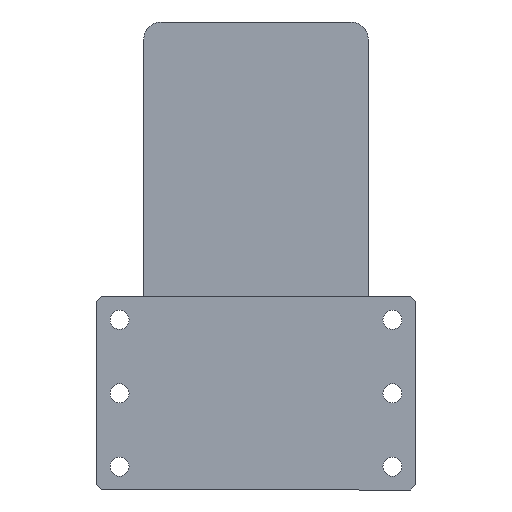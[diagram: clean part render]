
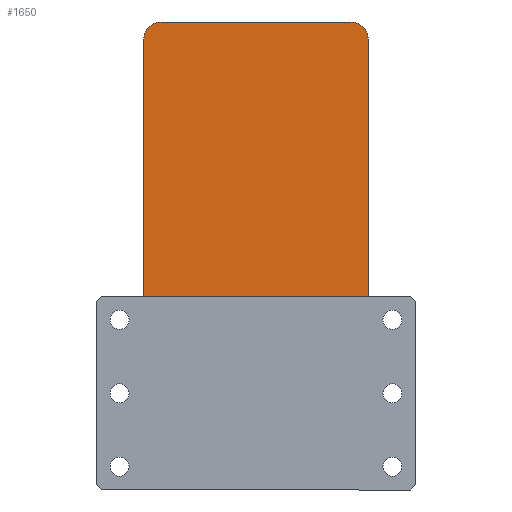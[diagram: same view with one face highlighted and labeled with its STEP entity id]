
A CAD part, left-side view. The second image highlights one B-rep face of the part: STEP entity #1650.
In plain terms, the highlighted planar face has unit normal (-1, 0, 0) as drawn and (0, 0, 1) by its records, which use the part's own axes.
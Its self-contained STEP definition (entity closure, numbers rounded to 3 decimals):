
#285 = VECTOR ( 'NONE', #9053, 1000. ) ;
#370 = LINE ( 'NONE', #9146, #285 ) ;
#385 = DIRECTION ( 'NONE',  ( 1., 0., 0. ) ) ;
#417 = EDGE_CURVE ( 'NONE', #4066, #1616, #8399, .T. ) ;
#431 = DIRECTION ( 'NONE',  ( 0., 0., 1. ) ) ;
#524 = CARTESIAN_POINT ( 'NONE',  ( 55., 125., 105. ) ) ;
#570 = VERTEX_POINT ( 'NONE', #8396 ) ;
#582 = EDGE_CURVE ( 'NONE', #4650, #570, #8069, .T. ) ;
#634 = EDGE_CURVE ( 'NONE', #5399, #5902, #7976, .T. ) ;
#762 = CIRCLE ( 'NONE', #1192, 10. ) ;
#907 = VERTEX_POINT ( 'NONE', #3441 ) ;
#1192 = AXIS2_PLACEMENT_3D ( 'NONE', #524, #431, #385 ) ;
#1616 = VERTEX_POINT ( 'NONE', #3503 ) ;
#1650 = ADVANCED_FACE ( 'NONE', ( #5343 ), #2405, .T. ) ;
#2171 = DIRECTION ( 'NONE',  ( 1., 0., 0. ) ) ;
#2190 = DIRECTION ( 'NONE',  ( 0., 0., 1. ) ) ;
#2237 = CARTESIAN_POINT ( 'NONE',  ( 0., 0., 105. ) ) ;
#2405 = PLANE ( 'NONE',  #7271 ) ;
#2859 = AXIS2_PLACEMENT_3D ( 'NONE', #8319, #8303, #8289 ) ;
#3441 = CARTESIAN_POINT ( 'NONE',  ( 65., 125., 105. ) ) ;
#3503 = CARTESIAN_POINT ( 'NONE',  ( -65., 125., 105. ) ) ;
#4050 = CARTESIAN_POINT ( 'NONE',  ( 55., -135., 105. ) ) ;
#4066 = VERTEX_POINT ( 'NONE', #10144 ) ;
#4650 = VERTEX_POINT ( 'NONE', #10748 ) ;
#5275 = CARTESIAN_POINT ( 'NONE',  ( 55., 135., 105. ) ) ;
#5280 = VERTEX_POINT ( 'NONE', #5275 ) ;
#5343 = FACE_OUTER_BOUND ( 'NONE', #9664, .T. ) ;
#5399 = VERTEX_POINT ( 'NONE', #4050 ) ;
#5553 = VECTOR ( 'NONE', #5908, 1000. ) ;
#5563 = LINE ( 'NONE', #10460, #10394 ) ;
#5901 = VECTOR ( 'NONE', #10081, 1000. ) ;
#5902 = VERTEX_POINT ( 'NONE', #10288 ) ;
#5908 = DIRECTION ( 'NONE',  ( 0., -1., 0. ) ) ;
#5978 = CARTESIAN_POINT ( 'NONE',  ( -65., 135., 105. ) ) ;
#6250 = AXIS2_PLACEMENT_3D ( 'NONE', #7581, #7563, #7536 ) ;
#7091 = EDGE_CURVE ( 'NONE', #907, #5280, #762, .T. ) ;
#7206 = EDGE_CURVE ( 'NONE', #5280, #4066, #370, .T. ) ;
#7271 = AXIS2_PLACEMENT_3D ( 'NONE', #2237, #2190, #2171 ) ;
#7327 = LINE ( 'NONE', #10200, #5901 ) ;
#7432 = EDGE_CURVE ( 'NONE', #5902, #907, #7327, .T. ) ;
#7536 = DIRECTION ( 'NONE',  ( 1., 0., 0. ) ) ;
#7563 = DIRECTION ( 'NONE',  ( 0., 0., 1. ) ) ;
#7581 = CARTESIAN_POINT ( 'NONE',  ( 55., -125., 105. ) ) ;
#7716 = EDGE_CURVE ( 'NONE', #1616, #4650, #9977, .T. ) ;
#7976 = CIRCLE ( 'NONE', #6250, 10. ) ;
#8069 = CIRCLE ( 'NONE', #2859, 10. ) ;
#8289 = DIRECTION ( 'NONE',  ( 1., 0., 0. ) ) ;
#8303 = DIRECTION ( 'NONE',  ( 0., 0., 1. ) ) ;
#8319 = CARTESIAN_POINT ( 'NONE',  ( -55., -125., 105. ) ) ;
#8322 = EDGE_CURVE ( 'NONE', #570, #5399, #5563, .T. ) ;
#8396 = CARTESIAN_POINT ( 'NONE',  ( -55., -135., 105. ) ) ;
#8399 = CIRCLE ( 'NONE', #9458, 10. ) ;
#8481 = ORIENTED_EDGE ( 'NONE', *, *, #582, .T. ) ;
#8569 = ORIENTED_EDGE ( 'NONE', *, *, #7716, .T. ) ;
#8600 = ORIENTED_EDGE ( 'NONE', *, *, #417, .T. ) ;
#8664 = ORIENTED_EDGE ( 'NONE', *, *, #7206, .T. ) ;
#8742 = ORIENTED_EDGE ( 'NONE', *, *, #7091, .T. ) ;
#8775 = ORIENTED_EDGE ( 'NONE', *, *, #7432, .T. ) ;
#8806 = ORIENTED_EDGE ( 'NONE', *, *, #634, .T. ) ;
#8871 = ORIENTED_EDGE ( 'NONE', *, *, #8322, .T. ) ;
#9053 = DIRECTION ( 'NONE',  ( -1., 0., 0. ) ) ;
#9146 = CARTESIAN_POINT ( 'NONE',  ( -65., 135., 105. ) ) ;
#9458 = AXIS2_PLACEMENT_3D ( 'NONE', #9671, #9665, #9647 ) ;
#9647 = DIRECTION ( 'NONE',  ( 1., 0., 0. ) ) ;
#9664 = EDGE_LOOP ( 'NONE', ( #8871, #8806, #8775, #8742, #8664, #8600, #8569, #8481 ) ) ;
#9665 = DIRECTION ( 'NONE',  ( 0., 0., 1. ) ) ;
#9671 = CARTESIAN_POINT ( 'NONE',  ( -55., 125., 105. ) ) ;
#9977 = LINE ( 'NONE', #5978, #5553 ) ;
#10081 = DIRECTION ( 'NONE',  ( 0., 1., 0. ) ) ;
#10144 = CARTESIAN_POINT ( 'NONE',  ( -55., 135., 105. ) ) ;
#10200 = CARTESIAN_POINT ( 'NONE',  ( 65., 135., 105. ) ) ;
#10288 = CARTESIAN_POINT ( 'NONE',  ( 65., -125., 105. ) ) ;
#10394 = VECTOR ( 'NONE', #10474, 1000. ) ;
#10460 = CARTESIAN_POINT ( 'NONE',  ( -65., -135., 105. ) ) ;
#10474 = DIRECTION ( 'NONE',  ( 1., 0., 0. ) ) ;
#10748 = CARTESIAN_POINT ( 'NONE',  ( -65., -125., 105. ) ) ;
